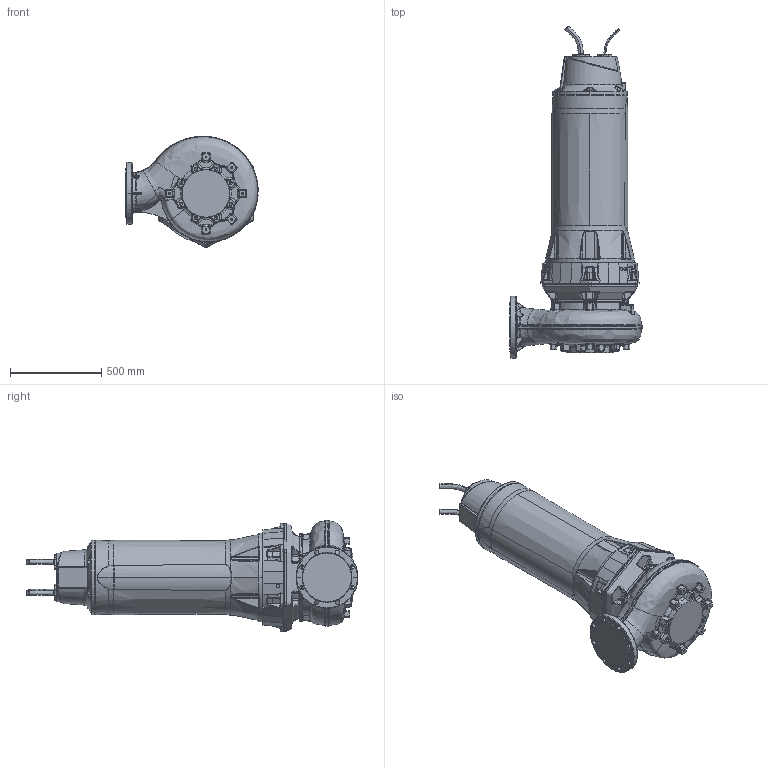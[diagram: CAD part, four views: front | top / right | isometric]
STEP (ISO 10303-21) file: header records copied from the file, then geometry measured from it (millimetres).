
FILE_DESCRIPTION (( 'STEP AP214' ), '1' );
FILE_NAME ('PE5_XFP200J-CH2_MOTOR OK_B_NG2.STEP', '2017-03-15T08:12:24', ( '' ), ( '' ), 'SwSTEP 2.0', 'SolidWorks 2017', '' );
FILE_SCHEMA (( 'AUTOMOTIVE_DESIGN' ));
Length unit declared in the file: millimetre
Products named in the file (1): PE5_XFP200J-CH2_MOTOR OK_B_NG2
Bounding box: 726.82 x 1822.58 x 611.55 mm (x, y, z)
Volume: 248522821 mm3; surface area: 3148476.2 mm2
Topology: 1 solids, 1 shells, 2290 faces, 5699 edges, 3340 vertices
Faces by surface type: bspline 915, cylinder 416, plane 381, torus 298, cone 246, sphere 34
Entity records: 167872 total; most frequent: CARTESIAN_POINT 96052, ORIENTED_EDGE 11190, DIRECTION 7974, EDGE_CURVE 5595, AXIS2_PLACEMENT_3D 3386, VERTEX_POINT 3340, EDGE_LOOP 2339, UNCERTAINTY_MEASURE_WITH_UNIT 2293
